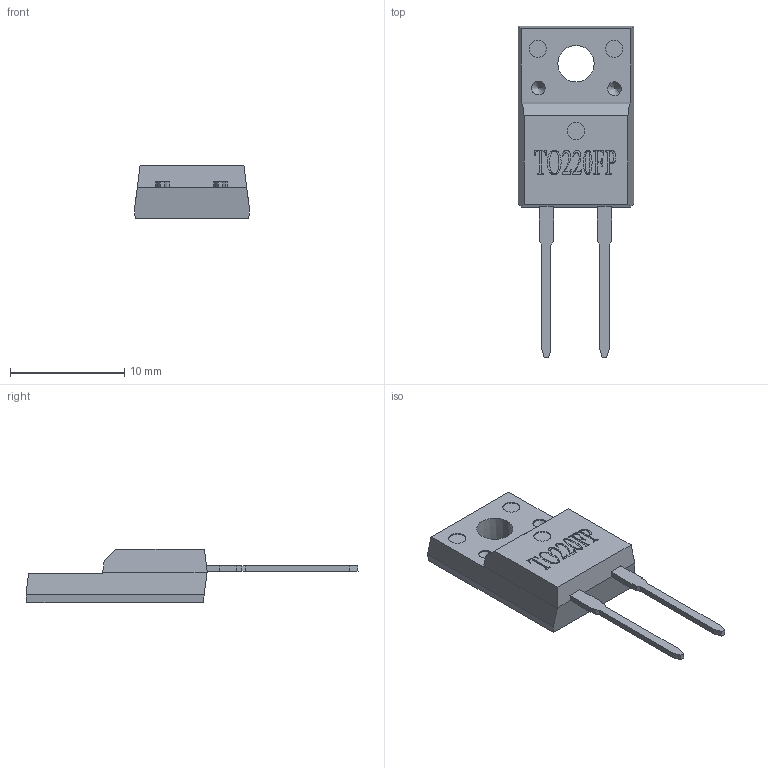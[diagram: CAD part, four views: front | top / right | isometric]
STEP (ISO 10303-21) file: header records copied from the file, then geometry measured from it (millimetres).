
FILE_DESCRIPTION (( 'STEP AP203' ), '1' );
FILE_NAME ('TO220-2L LF+PKG.STEP', '2019-01-08T08:48:41', ( '' ), ( '' ), 'SwSTEP 2.0', 'SolidWorks 2008', '' );
FILE_SCHEMA (( 'CONFIG_CONTROL_DESIGN' ));
Length unit declared in the file: millimetre
Products named in the file (3): TO220-2L LF+PKG; TO220FP-2L DG PKG_默认; TO220-2L DG LF_默认
Assembly tree (2 placements, depth 2):
  TO220-2L LF+PKG
    TO220-2L DG LF_默认
    TO220FP-2L DG PKG_默认
Bounding box: 10.1 x 29.07 x 4.7 mm (x, y, z)
Volume: 556.8 mm3; surface area: 1149.8 mm2
Topology: 3 solids, 3 shells, 322 faces, 893 edges, 588 vertices
Faces by surface type: plane 214, bspline 78, cylinder 24, cone 6
Entity records: 13228 total; most frequent: CARTESIAN_POINT 5182, ORIENTED_EDGE 1786, DIRECTION 1287, EDGE_CURVE 893, VECTOR 669, LINE 669, VERTEX_POINT 588, EDGE_LOOP 343
